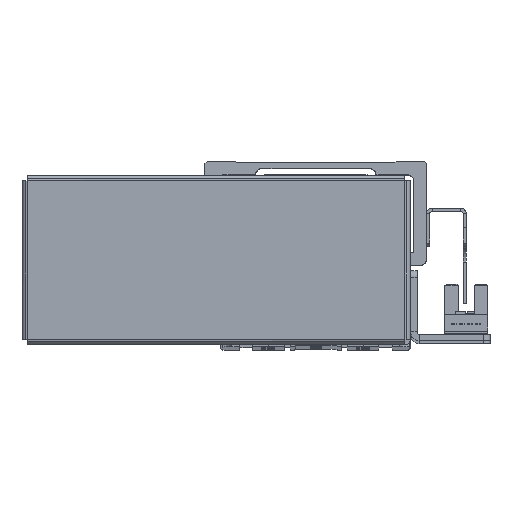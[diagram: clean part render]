
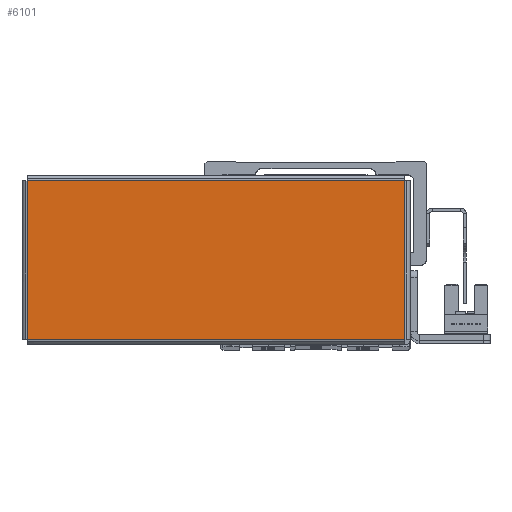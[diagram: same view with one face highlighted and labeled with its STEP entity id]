
A CAD part, top view. The second image highlights one B-rep face of the part: STEP entity #6101.
In plain terms, the highlighted planar face has unit normal (0, 0, 1) as drawn and (0, 0, -1) by its records, which use the part's own axes.
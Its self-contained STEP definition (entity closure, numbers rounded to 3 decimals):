
#1721 = VERTEX_POINT ( 'NONE', #10392 ) ;
#1728 = VERTEX_POINT ( 'NONE', #10402 ) ;
#1740 = VERTEX_POINT ( 'NONE', #10397 ) ;
#2564 = FACE_OUTER_BOUND ( 'NONE', #22251, .T. ) ;
#6101 = ADVANCED_FACE ( 'NONE', ( #2564 ), #14200, .F. ) ;
#10392 = CARTESIAN_POINT ( 'NONE',  ( 59.513, 25.013, -1. ) ) ;
#10397 = CARTESIAN_POINT ( 'NONE',  ( -59.513, -25.013, -1. ) ) ;
#10402 = CARTESIAN_POINT ( 'NONE',  ( 59.513, -25.013, -1. ) ) ;
#14200 = PLANE ( 'NONE',  #23824 ) ;
#14226 = CARTESIAN_POINT ( 'NONE',  ( 0., 0., -1. ) ) ;
#14248 = DIRECTION ( 'NONE',  ( 0., 0., 1. ) ) ;
#14255 = DIRECTION ( 'NONE',  ( 1., 0., 0. ) ) ;
#14887 = CARTESIAN_POINT ( 'NONE',  ( -59.513, 25.013, -1. ) ) ;
#17386 = EDGE_CURVE ( 'NONE', #1728, #1740, #28906, .T. ) ;
#17388 = EDGE_CURVE ( 'NONE', #1740, #20175, #28842, .T. ) ;
#17411 = EDGE_CURVE ( 'NONE', #20175, #1721, #28886, .T. ) ;
#17420 = EDGE_CURVE ( 'NONE', #1721, #1728, #29074, .T. ) ;
#18254 = ORIENTED_EDGE ( 'NONE', *, *, #17388, .T. ) ;
#18270 = ORIENTED_EDGE ( 'NONE', *, *, #17420, .T. ) ;
#18292 = ORIENTED_EDGE ( 'NONE', *, *, #17386, .T. ) ;
#18298 = ORIENTED_EDGE ( 'NONE', *, *, #17411, .T. ) ;
#20175 = VERTEX_POINT ( 'NONE', #14887 ) ;
#22251 = EDGE_LOOP ( 'NONE', ( #18270, #18292, #18254, #18298 ) ) ;
#22762 = CARTESIAN_POINT ( 'NONE',  ( -59.513, -25.043, -1. ) ) ;
#22768 = DIRECTION ( 'NONE',  ( 0., 1., 0. ) ) ;
#22780 = DIRECTION ( 'NONE',  ( -1., 0., 0. ) ) ;
#22791 = CARTESIAN_POINT ( 'NONE',  ( 59.543, -25.013, -1. ) ) ;
#22830 = CARTESIAN_POINT ( 'NONE',  ( -59.543, 25.013, -1. ) ) ;
#22833 = DIRECTION ( 'NONE',  ( 1., 0., 0. ) ) ;
#22845 = CARTESIAN_POINT ( 'NONE',  ( 59.513, 25.043, -1. ) ) ;
#22856 = DIRECTION ( 'NONE',  ( 0., -1., 0. ) ) ;
#23824 = AXIS2_PLACEMENT_3D ( 'NONE', #14226, #14248, #14255 ) ;
#28836 = VECTOR ( 'NONE', #22768, 1000. ) ;
#28842 = LINE ( 'NONE', #22762, #28836 ) ;
#28886 = LINE ( 'NONE', #22830, #28934 ) ;
#28898 = VECTOR ( 'NONE', #22780, 1000. ) ;
#28906 = LINE ( 'NONE', #22791, #28898 ) ;
#28934 = VECTOR ( 'NONE', #22833, 1000. ) ;
#28982 = VECTOR ( 'NONE', #22856, 1000. ) ;
#29074 = LINE ( 'NONE', #22845, #28982 ) ;
